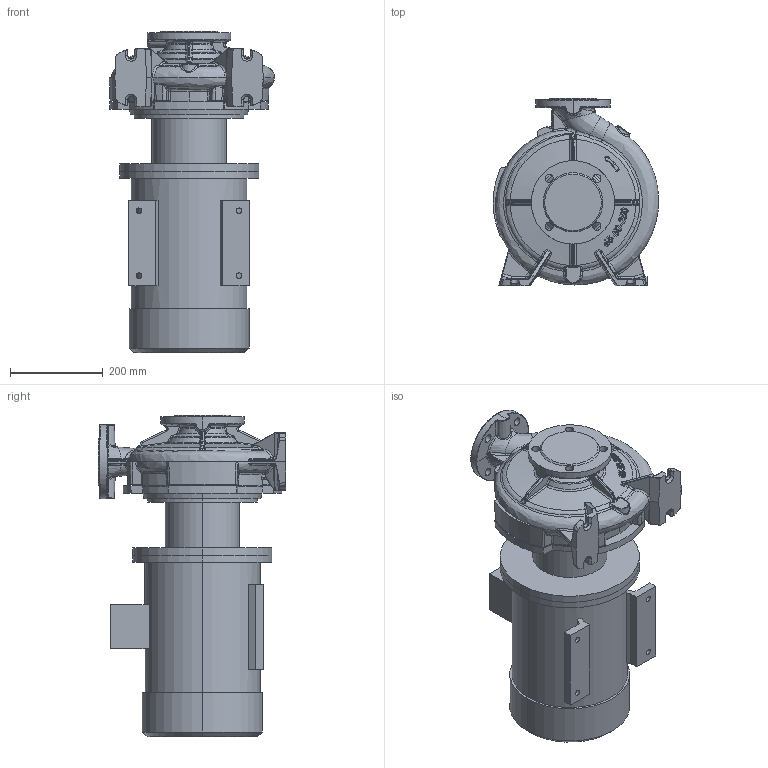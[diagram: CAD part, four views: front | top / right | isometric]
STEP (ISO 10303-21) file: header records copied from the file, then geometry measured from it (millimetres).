
FILE_DESCRIPTION (( 'STEP AP203' ), '1' );
FILE_NAME ('KRM 65-50-250-4-5,5.STEP', '2026-05-18T05:38:48', ( '' ), ( '' ), 'SwSTEP 2.0', 'SolidWorks 2016', '' );
FILE_SCHEMA (( 'CONFIG_CONTROL_DESIGN' ));
Length unit declared in the file: millimetre
Products named in the file (1): KRM 65-50-250-4-5,5
Bounding box: 356.92 x 405 x 693 mm (x, y, z)
Volume: 37427188.8 mm3; surface area: 1541295.8 mm2
Topology: 4 solids, 4 shells, 1169 faces, 2832 edges, 1679 vertices
Faces by surface type: bspline 550, cylinder 224, plane 212, torus 83, cone 83, sphere 17
Entity records: 73042 total; most frequent: CARTESIAN_POINT 50334, ORIENTED_EDGE 5610, DIRECTION 3540, EDGE_CURVE 2805, VERTEX_POINT 1679, AXIS2_PLACEMENT_3D 1465, EDGE_LOOP 1228, ADVANCED_FACE 1169
